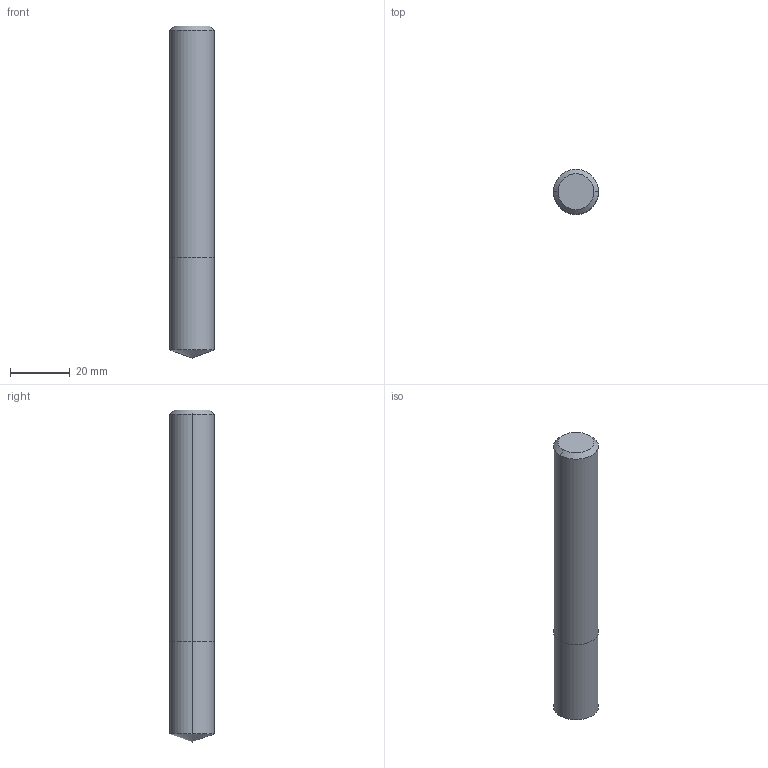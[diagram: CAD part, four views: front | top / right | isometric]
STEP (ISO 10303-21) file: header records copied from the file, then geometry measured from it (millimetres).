
FILE_DESCRIPTION (( 'STEP AP214' ), '1' );
FILE_NAME ('303.150.00_3D-model.step', '2022-02-19T16:13:04', ( '' ), ( '' ), 'SwSTEP 2.0', 'SolidWorks 2020', '' );
FILE_SCHEMA (( 'AUTOMOTIVE_DESIGN' ));
Length unit declared in the file: millimetre
Products named in the file (3): CUT-3D^Baugr83; 303.150.00_3D-model; NOCUT-3D^Baugr83
Assembly tree (2 placements, depth 2):
  303.150.00_3D-model
    CUT-3D^Baugr83
    NOCUT-3D^Baugr83
Bounding box: 15 x 15 x 111 mm (x, y, z)
Volume: 19244.3 mm3; surface area: 5776 mm2
Topology: 2 solids, 2 shells, 11 faces, 20 edges, 11 vertices
Faces by surface type: cone 4, cylinder 4, plane 3
Entity records: 380 total; most frequent: DIRECTION 66, CARTESIAN_POINT 48, ORIENTED_EDGE 36, AXIS2_PLACEMENT_3D 29, EDGE_CURVE 18, EDGE_LOOP 11, VERTEX_POINT 11, ADVANCED_FACE 11
